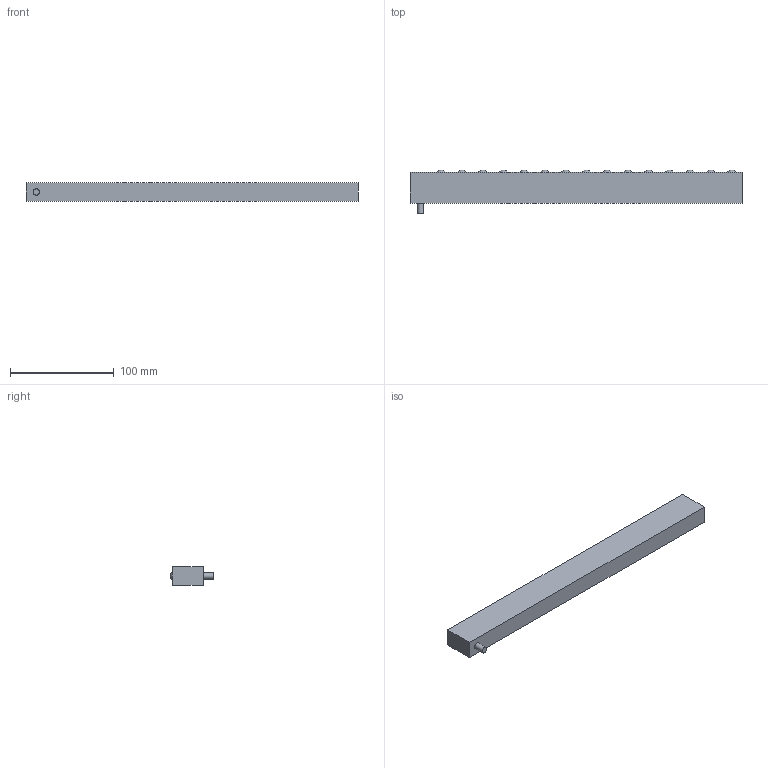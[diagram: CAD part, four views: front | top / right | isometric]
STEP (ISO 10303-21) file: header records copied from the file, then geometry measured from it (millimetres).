
FILE_DESCRIPTION(/* description */ (''),/* implementation_level */ '2;1');
FILE_NAME(/* name */ 'V:\Shrinkwrap\EMB\EMB - SHRINKWRAP\EMB18-15_Shrinkwrap_1.stp',/* time_stamp */ '2022-08-12T10:03:10+02:00',/* author */ ('cw'),/* organization */ (''),/* preprocessor_version */ 'ST-DEVELOPER v17',/* originating_system */ 'Autodesk Inventor 2019',/* authorisation */ '');
FILE_SCHEMA (('AUTOMOTIVE_DESIGN { 1 0 10303 214 3 1 1 }'));
Length unit declared in the file: millimetre
Products named in the file (1): EMB18-15_Shrinkwrap_1
Bounding box: 320 x 42.27 x 17.8 mm (x, y, z)
Volume: 169607.6 mm3; surface area: 33231 mm2
Topology: 1 solids, 1 shells, 29 faces, 43 edges, 37 vertices
Faces by surface type: sphere 15, plane 10, cylinder 4
Full cylindrical faces by diameter (mm): 6 x1, 6.5 x1, 10 x1, 11 x1
Entity records: 763 total; most frequent: DIRECTION 126, CARTESIAN_POINT 108, ORIENTED_EDGE 82, AXIS2_PLACEMENT_3D 55, EDGE_LOOP 48, EDGE_CURVE 41, VERTEX_POINT 33, STYLED_ITEM 32
